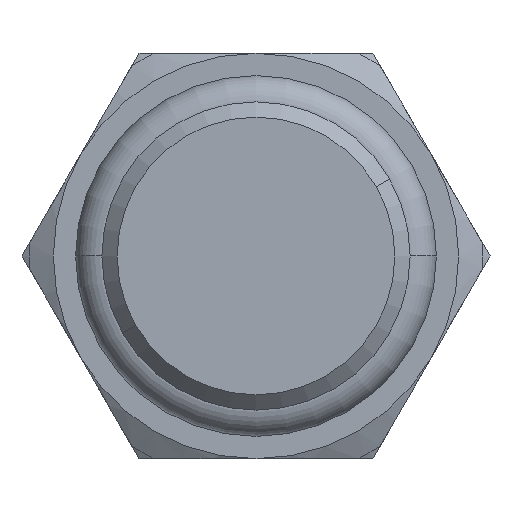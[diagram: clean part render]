
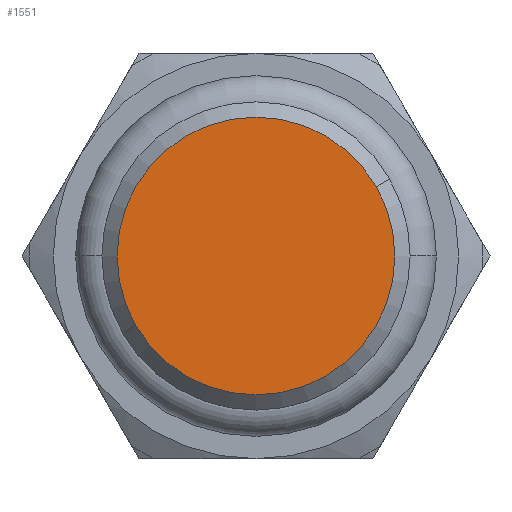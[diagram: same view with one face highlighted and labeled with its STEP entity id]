
A CAD part, left-side view. The second image highlights one B-rep face of the part: STEP entity #1551.
In plain terms, the highlighted planar face has unit normal (-1, 0, 0).
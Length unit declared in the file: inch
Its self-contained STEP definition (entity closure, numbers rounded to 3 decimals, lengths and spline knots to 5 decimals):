
#1044=CARTESIAN_POINT('',(-0.624,0.,0.));
#1045=DIRECTION('',(-1.,0.,0.));
#1046=DIRECTION('',(0.,-0.866,0.5));
#1047=AXIS2_PLACEMENT_3D('',#1044,#1045,#1046);
#1077=CARTESIAN_POINT('',(-0.624,0.,0.));
#1078=DIRECTION('',(1.,0.,0.));
#1079=DIRECTION('',(0.,-0.866,0.5));
#1080=AXIS2_PLACEMENT_3D('',#1077,#1078,#1079);
#1170=CARTESIAN_POINT('',(-0.624,-0.14831,0.08563));
#1172=VERTEX_POINT('',#1170);
#1178=CARTESIAN_POINT('',(-0.624,0.14831,-0.08563));
#1180=VERTEX_POINT('',#1178);
#1540=CARTESIAN_POINT('',(-0.624,0.,0.));
#1541=DIRECTION('',(-1.,0.,0.));
#1542=DIRECTION('',(0.,0.866,-0.5));
#1543=AXIS2_PLACEMENT_3D('',#1540,#1541,#1542);
#1544=PLANE('',#1543);
#1546=ORIENTED_EDGE('',*,*,#1545,.T.);
#1548=ORIENTED_EDGE('',*,*,#1547,.F.);
#1549=EDGE_LOOP('',(#1546,#1548));
#1550=FACE_OUTER_BOUND('',#1549,.F.);
#1551=ADVANCED_FACE('',(#1550),#1544,.T.);
#1048=CIRCLE('',#1047,0.17125);
#1081=CIRCLE('',#1080,0.17125);
#1545=EDGE_CURVE('',#1172,#1180,#1081,.T.);
#1547=EDGE_CURVE('',#1172,#1180,#1048,.T.);
